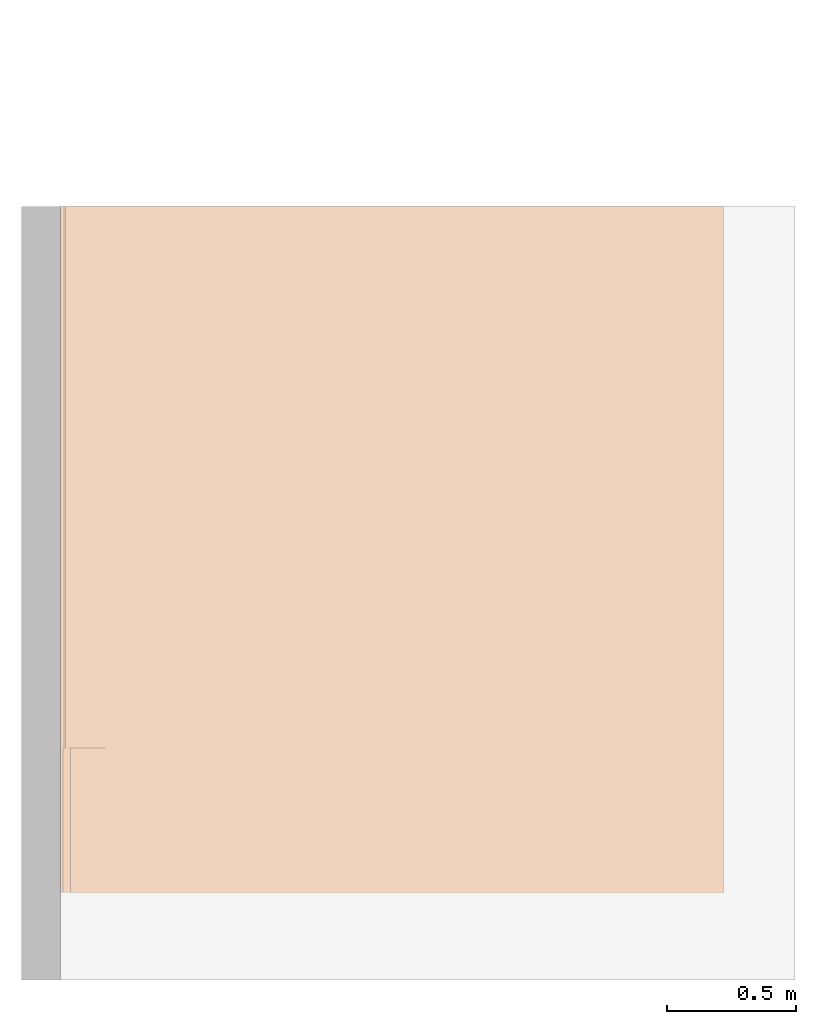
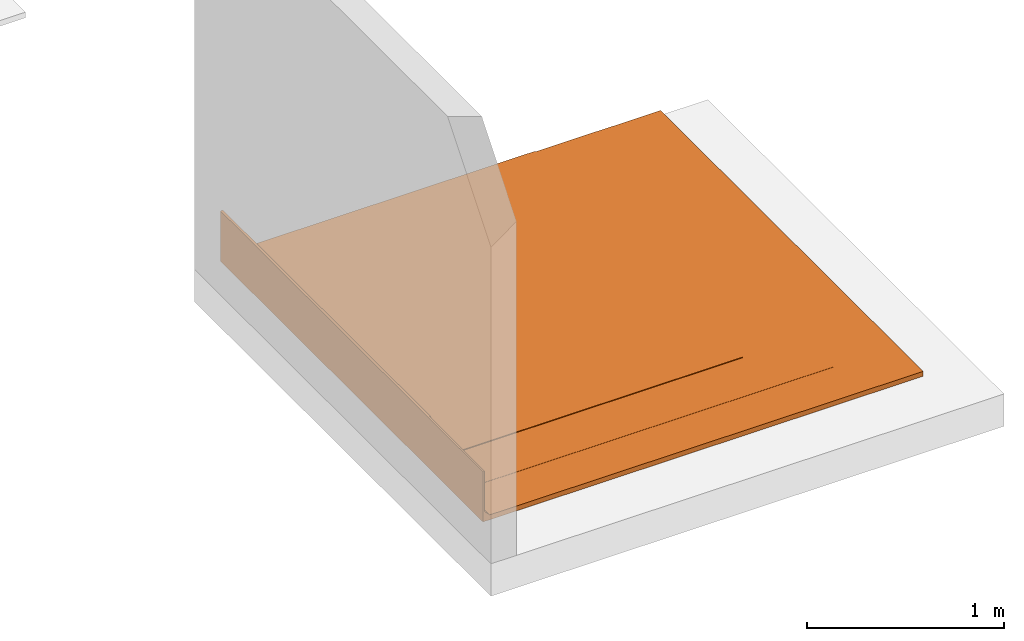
# One storey, part 2 of 2: 1 proxy.
"""IFC2X3 building model written with IfcOpenShell, lengths in metres."""

from ifc_helpers import new_model, entity, si_unit, converted_unit, derived_unit, direction, frame, frame_2d, origin, origin_2d_with_axis, place, context, subcontext, project, spatial, polyline, circle_curve, parameter, trimmed, segment, composite_curve, rectangle, outline, extrude, source, transform, mapped, material, material_list, type_object, type_shapes, element, save


model = new_model("IFC2X3")

# Units and contexts
model_context = context("Model", 3, precision=1e-05, world=origin(), true_north=direction((6.123031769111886e-17, 1.0)))
body_context = subcontext(model_context, "Body", "Model", "MODEL_VIEW")
ifc_project = project(units=[si_unit("LENGTHUNIT", "METRE"), si_unit("AREAUNIT", "SQUARE_METRE"), si_unit("VOLUMEUNIT", "CUBIC_METRE"), converted_unit("PLANEANGLEUNIT", "DEGREE", entity("IfcRatioMeasure", 0.017453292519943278), si_unit("PLANEANGLEUNIT", "RADIAN"), dimensions=[0, 0, 0, 0, 0, 0, 0]), si_unit("MASSUNIT", "GRAM", prefix="KILO"), derived_unit("MASSDENSITYUNIT", [(si_unit("MASSUNIT", "GRAM", prefix="KILO"), 1), (si_unit("LENGTHUNIT", "METRE"), -3)]), derived_unit("IONCONCENTRATIONUNIT", [(si_unit("MASSUNIT", "GRAM", prefix="KILO"), 1), (si_unit("LENGTHUNIT", "METRE"), -3)]), derived_unit("MOMENTOFINERTIAUNIT", [(si_unit("LENGTHUNIT", "METRE"), 4)]), si_unit("TIMEUNIT", "SECOND"), si_unit("FREQUENCYUNIT", "HERTZ"), si_unit("THERMODYNAMICTEMPERATUREUNIT", "DEGREE_CELSIUS"), derived_unit("THERMALTRANSMITTANCEUNIT", [(si_unit("MASSUNIT", "GRAM", prefix="KILO"), 1), (si_unit("THERMODYNAMICTEMPERATUREUNIT", "KELVIN"), -1), (si_unit("TIMEUNIT", "SECOND"), -3)]), derived_unit("THERMALCONDUCTANCEUNIT", [(si_unit("MASSUNIT", "GRAM", prefix="KILO"), 1), (si_unit("THERMODYNAMICTEMPERATUREUNIT", "KELVIN"), -1), (si_unit("TIMEUNIT", "SECOND"), -3), (si_unit("LENGTHUNIT", "METRE"), 1)]), derived_unit("VOLUMETRICFLOWRATEUNIT", [(si_unit("LENGTHUNIT", "METRE"), 3), (si_unit("TIMEUNIT", "SECOND"), -1)]), derived_unit("MASSFLOWRATEUNIT", [(si_unit("MASSUNIT", "GRAM", prefix="KILO"), 1), (si_unit("TIMEUNIT", "SECOND"), -1)]), derived_unit("ROTATIONALFREQUENCYUNIT", [(si_unit("TIMEUNIT", "SECOND"), -1)]), si_unit("ELECTRICCURRENTUNIT", "AMPERE"), si_unit("ELECTRICVOLTAGEUNIT", "VOLT"), si_unit("POWERUNIT", "WATT"), si_unit("FORCEUNIT", "NEWTON", prefix="KILO"), si_unit("ILLUMINANCEUNIT", "LUX"), si_unit("LUMINOUSFLUXUNIT", "LUMEN"), si_unit("LUMINOUSINTENSITYUNIT", "CANDELA"), derived_unit("USERDEFINED", [(si_unit("MASSUNIT", "GRAM", prefix="KILO"), -1), (si_unit("LENGTHUNIT", "METRE"), -2), (si_unit("TIMEUNIT", "SECOND"), 3), (si_unit("LUMINOUSFLUXUNIT", "LUMEN"), 1)]), derived_unit("USERDEFINED", [(si_unit("MASSUNIT", "GRAM", prefix="KILO"), 1), (si_unit("TIMEUNIT", "SECOND"), -3), (si_unit("LENGTHUNIT", "METRE"), 3), (si_unit("ELECTRICCURRENTUNIT", "AMPERE"), -2)]), derived_unit("SOUNDPOWERUNIT", [(si_unit("MASSUNIT", "GRAM", prefix="KILO"), 1), (si_unit("TIMEUNIT", "SECOND"), -3), (si_unit("LENGTHUNIT", "METRE"), 2)]), derived_unit("SOUNDPRESSUREUNIT", [(si_unit("MASSUNIT", "GRAM", prefix="KILO"), 1), (si_unit("LENGTHUNIT", "METRE"), -1), (si_unit("TIMEUNIT", "SECOND"), -2)]), derived_unit("LINEARVELOCITYUNIT", [(si_unit("LENGTHUNIT", "METRE"), 1), (si_unit("TIMEUNIT", "SECOND"), -1)]), si_unit("PRESSUREUNIT", "PASCAL"), derived_unit("USERDEFINED", [(si_unit("MASSUNIT", "GRAM", prefix="KILO"), 1), (si_unit("LENGTHUNIT", "METRE"), -2), (si_unit("TIMEUNIT", "SECOND"), -2)]), derived_unit("LINEARFORCEUNIT", [(si_unit("MASSUNIT", "GRAM", prefix="KILO"), 1), (si_unit("TIMEUNIT", "SECOND"), -2)]), derived_unit("PLANARFORCEUNIT", [(si_unit("MASSUNIT", "GRAM", prefix="KILO"), 1), (si_unit("LENGTHUNIT", "METRE"), -1), (si_unit("TIMEUNIT", "SECOND"), -2)]), derived_unit("SPECIFICHEATCAPACITYUNIT", [(si_unit("THERMODYNAMICTEMPERATUREUNIT", "KELVIN"), -1), (si_unit("LENGTHUNIT", "METRE"), 2), (si_unit("TIMEUNIT", "SECOND"), -2)]), derived_unit("HEATINGVALUEUNIT", [(si_unit("LENGTHUNIT", "METRE"), 2), (si_unit("TIMEUNIT", "SECOND"), -2)]), derived_unit("VAPORPERMEABILITYUNIT", [(si_unit("LENGTHUNIT", "METRE"), -1), (si_unit("TIMEUNIT", "SECOND"), 1)]), derived_unit("DYNAMICVISCOSITYUNIT", [(si_unit("MASSUNIT", "GRAM", prefix="KILO"), 1), (si_unit("TIMEUNIT", "SECOND"), -1), (si_unit("LENGTHUNIT", "METRE"), -1)]), derived_unit("THERMALEXPANSIONCOEFFICIENTUNIT", [(si_unit("THERMODYNAMICTEMPERATUREUNIT", "KELVIN"), -1)]), derived_unit("MODULUSOFELASTICITYUNIT", [(si_unit("MASSUNIT", "GRAM", prefix="KILO"), 1), (si_unit("LENGTHUNIT", "METRE"), -1), (si_unit("TIMEUNIT", "SECOND"), -2)]), derived_unit("ISOTHERMALMOISTURECAPACITYUNIT", [(si_unit("LENGTHUNIT", "METRE"), 3), (si_unit("MASSUNIT", "GRAM", prefix="KILO"), -1)]), derived_unit("MOISTUREDIFFUSIVITYUNIT", [(si_unit("TIMEUNIT", "SECOND"), -1), (si_unit("LENGTHUNIT", "METRE"), 2)])], contexts=[model_context])

# Site, building, storey
site_placement = place(None, origin())
site = spatial("IfcSite", under=ifc_project, at=site_placement, Name="Default", CompositionType="ELEMENT")
building_placement = place(site_placement, origin())
building = spatial("IfcBuilding", under=site, at=building_placement, CompositionType="ELEMENT")
storey_placement = place(building_placement, frame((0.0, 0.0, -0.0025237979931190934)))
storey = spatial("IfcBuildingStorey", under=building, at=storey_placement, Name="ARQ Térreo", CompositionType="ELEMENT", Elevation=-0.0025237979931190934)

# Proxy
ifc_material_1 = material(Name="#argamassa")
ifc_material_2 = material(Name="#Viapoxi Adesivo Tix")
ifc_material_3 = material(Name="#Primer Adeflex")
ifc_material_4 = material(Name="# Premium Alumínio Poliéster")
ifc_material_list = material_list([ifc_material_1, ifc_material_2, ifc_material_3, ifc_material_4])
building_element_proxy_type = type_object("IfcBuildingElementProxyType", Name="IMPER:IMPER", PredefinedType="NOTDEFINED", material=ifc_material_list)
shared_shape = source(origin(), body_context, "Body", "SweptSolid", [
    extrude(rectangle(XDim=2.660000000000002, YDim=0.009999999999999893, at=origin_2d_with_axis()), frame((-0.3469704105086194, -1.184129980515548, -0.0025237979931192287), z_axis=(0.0, 0.0, 1.0), x_axis=(0.0, -1.0, 0.0)), (0.0, 0.0, 1.0), 0.3099999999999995),
    extrude(outline(polyline([(-3.2314594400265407e-06, 0.0), (0.005008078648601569, 0.0), (0.005008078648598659, 0.010000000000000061), (-3.2314594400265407e-06, 0.010000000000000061), (-0.00500323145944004, 0.0), (-0.00500323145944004, -0.009999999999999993), (-3.2314594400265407e-06, -0.009999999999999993), (-3.2314594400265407e-06, 0.0)])), frame((-0.3369623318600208, -1.9541299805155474, 0.29747620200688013), z_axis=(0.0, 1.0, 0.0), x_axis=(-1.0, 0.0, 0.0)), (0.0, 0.0, 1.0), 2.1000000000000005),
    extrude(outline(composite_curve([segment(polyline([(-1.0015321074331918, -0.006000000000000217), (1.5322981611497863, -0.0060000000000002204)]), True, "CONTINUOUS"), segment(polyline([(1.5322981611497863, -0.0060000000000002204), (1.5322981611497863, 0.02399999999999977)]), True, "CONTINUOUS"), segment(polyline([(1.5322981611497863, 0.02399999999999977), (-1.0315321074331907, 0.023999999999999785)]), True, "CONTINUOUS"), segment(polyline([(-1.0315321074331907, 0.02399999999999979), (-1.031532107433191, -0.03599999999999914)]), True, "CONTINUOUS"), segment(trimmed(circle_curve(frame_2d((-1.0015321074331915, -0.035999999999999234), x_axis=(1.0, 0.0)), 0.029999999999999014), [parameter(90.0000000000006)], [parameter(179.99999999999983)], True, "PARAMETER"), False, "CONTINUOUS")], self_intersect=False)), frame((0.6895616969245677, -2.514129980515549, 0.021476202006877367), z_axis=(0.0, 1.0, 0.0), x_axis=(1.0, 0.0, 0.0)), (0.0, 0.0, 1.0), 2.660000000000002),
    extrude(outline(composite_curve([segment(polyline([(-0.5530448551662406, -0.045965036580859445), (-0.5530448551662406, 0.1948448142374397)]), True, "CONTINUOUS"), segment(polyline([(-0.5530448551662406, 0.1948448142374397), (-0.5540561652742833, 0.1948448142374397)]), True, "CONTINUOUS"), segment(polyline([(-0.5540561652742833, 0.1948448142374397), (-0.5540561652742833, -0.04515518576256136)]), True, "CONTINUOUS"), segment(trimmed(circle_curve(frame_2d((-0.5240561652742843, -0.045155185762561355), x_axis=(1.0, 0.0)), 0.029999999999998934), [parameter(179.99999999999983)], [parameter(270.00000000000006)], True, "PARAMETER"), True, "CONTINUOUS"), segment(polyline([(-0.5240561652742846, -0.0751551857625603), (1.6317671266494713, -0.07515518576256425)]), True, "CONTINUOUS"), segment(polyline([(1.6317671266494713, -0.07515518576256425), (1.6317671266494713, -0.07412951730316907)]), True, "CONTINUOUS"), segment(polyline([(1.6317671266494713, -0.07412951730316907), (-0.5252760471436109, -0.07412951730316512)]), True, "CONTINUOUS"), segment(trimmed(circle_curve(frame_2d((-0.5240561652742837, -0.0451551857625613), x_axis=(1.0, 0.0)), 0.028999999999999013), [parameter(181.60024369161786)], [parameter(267.5891478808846)], True, "PARAMETER"), False, "CONTINUOUS")], self_intersect=False)), frame((0.21208575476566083, -2.2541299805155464, 0.1026313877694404), z_axis=(0.0, -1.0, 0.0), x_axis=(1.0, 0.0, 0.0)), (0.0, 0.0, -1.0), 2.3999999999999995),
    extrude(outline(composite_curve([segment(polyline([(-0.16564536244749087, -0.026854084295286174), (-0.16564536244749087, -0.030854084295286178)]), True, "CONTINUOUS"), segment(polyline([(-0.16564536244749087, -0.030854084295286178), (-0.038977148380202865, -0.03085408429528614)]), True, "CONTINUOUS"), segment(trimmed(circle_curve(frame_2d((-0.03897714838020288, -0.021882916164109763), x_axis=(0.0, 1.0)), 0.008971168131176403), [parameter(179.99999999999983)], [parameter(237.23916923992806)], True, "PARAMETER"), True, "CONTINUOUS"), segment(trimmed(circle_curve(frame_2d((-0.030518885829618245, -0.027007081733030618), x_axis=(0.0, 1.0)), 0.0009529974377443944), [parameter(0.0)], [parameter(73.56892721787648)], True, "PARAMETER"), False, "CONTINUOUS"), segment(polyline([(-0.030518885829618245, -0.026054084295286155), (0.07509442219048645, -0.026054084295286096)]), True, "CONTINUOUS"), segment(trimmed(circle_curve(frame_2d((0.07435463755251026, -0.0018653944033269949), x_axis=(0.0, 1.0)), 0.024199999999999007), [parameter(181.75178272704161)], [parameter(267.36082466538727)], True, "PARAMETER"), True, "CONTINUOUS"), segment(polyline([(0.09852896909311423, -0.0029797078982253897), (0.09852896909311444, 0.1331459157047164)]), True, "CONTINUOUS"), segment(polyline([(0.09852896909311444, 0.1331459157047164), (0.0945289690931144, 0.13314591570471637)]), True, "CONTINUOUS"), segment(polyline([(0.0945289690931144, 0.13314591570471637), (0.09452896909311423, -0.000847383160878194)]), True, "CONTINUOUS"), segment(trimmed(circle_curve(frame_2d((0.07435463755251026, -0.0018653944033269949), x_axis=(0.0, 1.0)), 0.020199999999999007), [parameter(181.91741264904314)], [parameter(272.8887359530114)], True, "PARAMETER"), False, "CONTINUOUS"), segment(polyline([(0.07503050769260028, -0.022054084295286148), (-0.03051888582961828, -0.022054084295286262)]), True, "CONTINUOUS"), segment(trimmed(circle_curve(frame_2d((-0.030518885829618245, -0.027007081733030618), x_axis=(0.0, 1.0)), 0.004952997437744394), [parameter(4.0711099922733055e-13)], [parameter(53.98237944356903)], True, "PARAMETER"), True, "CONTINUOUS"), segment(trimmed(circle_curve(frame_2d((-0.03897714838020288, -0.021882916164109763), x_axis=(0.0, 1.0)), 0.004971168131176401), [parameter(180.00000000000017)], [parameter(243.58355014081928)], True, "PARAMETER"), False, "CONTINUOUS"), segment(polyline([(-0.03897714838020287, -0.02685408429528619), (-0.16564536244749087, -0.026854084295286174)]), True, "CONTINUOUS")], self_intersect=False)), frame((-0.3101050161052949, -1.954129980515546, 0.1318308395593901), z_axis=(0.0, -1.0, 0.0), x_axis=(0.0, 0.0, -1.0)), (0.0, 0.0, -1.0), 2.1000000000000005),
    extrude(outline(composite_curve([segment(polyline([(-0.4612002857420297, -0.013825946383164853), (-0.4612002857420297, 0.09195163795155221)]), True, "CONTINUOUS"), segment(polyline([(-0.4612002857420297, 0.09195163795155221), (-0.4652002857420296, 0.09595163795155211)]), True, "CONTINUOUS"), segment(polyline([(-0.4652002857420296, 0.09595163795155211), (-0.46520028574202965, -0.013883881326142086)]), True, "CONTINUOUS"), segment(trimmed(circle_curve(frame_2d((-0.43621159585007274, -0.013074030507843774), x_axis=(1.0, 0.0)), 0.028999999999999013), [parameter(181.60024369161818)], [parameter(267.5891478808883)], True, "PARAMETER"), True, "CONTINUOUS"), segment(polyline([(-0.43743147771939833, -0.04204836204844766), (1.3637884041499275, -0.042048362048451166)]), True, "CONTINUOUS"), segment(polyline([(1.3637884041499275, -0.042048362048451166), (1.3637884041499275, -0.038048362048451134)]), True, "CONTINUOUS"), segment(polyline([(1.3637884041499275, -0.038048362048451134), (-0.4373441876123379, -0.038048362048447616)]), True, "CONTINUOUS"), segment(trimmed(circle_curve(frame_2d((-0.43621159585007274, -0.013074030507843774), x_axis=(1.0, 0.0)), 0.024999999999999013), [parameter(181.72352416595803)], [parameter(267.40340214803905)], True, "PARAMETER"), False, "CONTINUOUS")], self_intersect=False)), frame((0.12424118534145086, -1.9541299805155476, 0.07055023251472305), z_axis=(0.0, -1.0, 0.0), x_axis=(1.0, 0.0, 0.0)), (0.0, 0.0, -1.0), 2.1000000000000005),
])
type_shapes(building_element_proxy_type, [shared_shape])
proxy_placement = place(storey_placement, frame((0.0, 0.0, 0.0025237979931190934)))
element("IfcBuildingElementProxy", 1, at=proxy_placement, inside=storey, type_object=building_element_proxy_type, material=ifc_material_list, Name="IMPER:IMPER:IMPER : IMPER:IMPER", ObjectType="IMPER:IMPER:IMPER : IMPER:IMPER", context=body_context, shape_type="MappedRepresentation", body=[
    mapped(shared_shape, transform((0.0, 0.0, 0.0), scale=1.0)),
])

save(model, "model.ifc")
